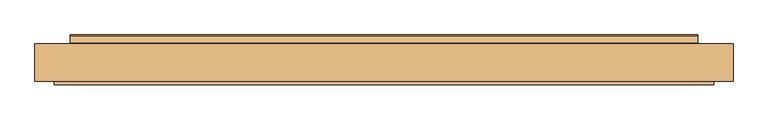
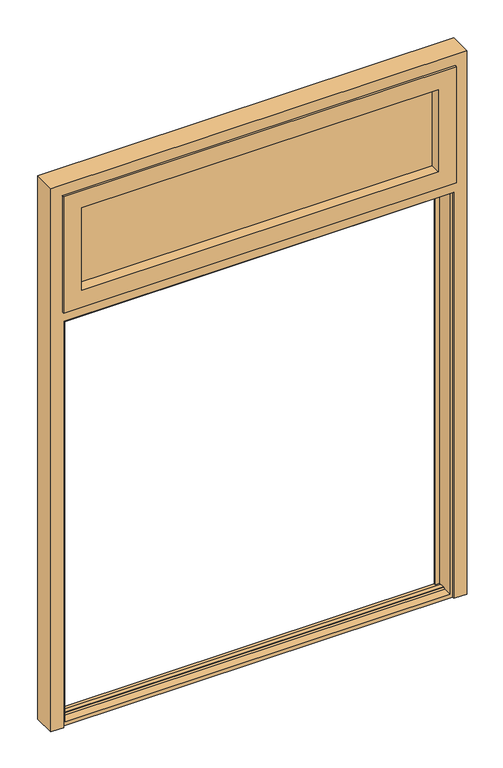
"""IFC4 building model written with IfcOpenShell, lengths in millimetres: door geometry, Dvokrilna vrata s ventusom : Dvokrilna vrata s ventusom."""

from ifc_helpers import new_model, si_unit, frame, origin, place, context, project, spatial, polyline, circle_curve, outline, extrude, source, transform, mapped, element, save
from ifc_brep_helpers import plane_surface, cylinder_surface, revolved_surface, advanced_brep


def door_6dbeb30b(model_context):
    return source(origin(), model_context, "Body", "SolidModel", [
        advanced_brep(
        [(728.9999515, 51.5034493, 2128.9999515), (728.9999515, -25.0, 2128.9999515), (728.9999515, -25.0, 1697.0000485), (728.9999515, 51.5034493, 1697.0000485), (746.499939, -25.0, 2146.499939), (746.499939, -25.0, 1679.500061), (-746.499939, -25.0, 1679.500061), (-746.499939, -25.0, 2146.499939), (-728.9999515, -25.0, 2128.9999515), (-728.9999515, -25.0, 1697.0000485), (-728.9999515, 51.5034493, 1697.0000485), (-728.9999515, 51.5034493, 2128.9999515), (710.4939147, 51.5034493, 1715.5060853), (710.4939147, 51.5034493, 2110.4939147), (-710.4939147, 51.5034493, 2110.4939147), (-710.4939147, 51.5034493, 1715.5060853), (710.4939147, 60.0034493, 2110.4939147), (710.4939147, 60.0034493, 1715.5060853), (710.4939147, 61.4138439, 1715.5111266), (710.4939147, 61.4034433, 1718.4208963), (710.4939147, 65.4034557, 1725.3492482), (710.4939147, 77.4034496, 1718.4209945), (710.4939147, 78.5504065, 1715.5060853), (710.4939147, 79.9811113, 1715.5060853), (710.4939147, 78.0034193, 1719.6911593), (710.4939147, 61.0034803, 1729.5061013), (710.4939147, 60.0034493, 1729.5061013), (-710.4939147, 60.0034493, 1715.5060853), (-710.4939147, 61.4138439, 1715.5111266), (-710.4939147, 61.4034433, 1718.4208963), (-710.4939147, 65.4034557, 1725.3492482), (-710.4939147, 77.4034496, 1718.4209945), (-710.4939147, 78.5504065, 1715.5060853), (-710.4939147, 79.9811113, 1715.5060853), (-710.4939147, 78.0034193, 1719.6911593), (-710.4939147, 61.0034803, 1729.5061013), (-710.4939147, 60.0034493, 1729.5061013), (-710.4939147, 60.0034493, 2110.4939147), (678.0736554, 60.0034493, 1747.9263446), (678.0736554, 60.0034493, 2078.0736554), (-678.0736554, 60.0034493, 2078.0736554), (-678.0736554, 60.0034493, 1747.9263446), (678.0736554, 52.5067387, 2078.0736554), (678.0736554, 52.5067387, 1747.9263446), (-678.0736554, 52.5067387, 1747.9263446), (690.0778178, 52.5067387, 1735.9221822), (690.0778178, 52.5067387, 2090.0778178), (-690.0778178, 52.5067387, 2090.0778178), (-690.0778178, 52.5067387, 1735.9221822), (-678.0736554, 52.5067387, 2078.0736554), (690.0778178, 8.5067387, 2090.0778178), (690.0778178, 8.5067387, 1735.9221822), (-690.0778178, 8.5067387, 1735.9221822), (-690.0778178, 8.5067387, 2090.0778178), (677.9998235, 8.5067387, 1748.0001765), (677.9998235, 8.5067387, 2077.9998235), (-677.9998235, 8.5067387, 2077.9998235), (-677.9998235, 8.5067387, 1748.0001765), (677.9998235, -33.000108, 2077.9998235), (677.9998235, -33.000108, 1748.0001765), (-677.9998235, -33.000108, 1748.0001765), (746.499939, -33.000108, 1679.500061), (746.499939, -33.000108, 2146.499939), (-746.499939, -33.000108, 2146.499939), (-746.499939, -33.000108, 1679.500061), (-677.9998235, -33.000108, 2077.9998235)],
        [
            (0, 1),
            (1, 2),
            (2, 3),
            (3, 0),
            (4, 5),
            (5, 6),
            (6, 7),
            (7, 4),
            (1, 8),
            (8, 9),
            (9, 2),
            (9, 10),
            (10, 3),
            (10, 11),
            (11, 0),
            (12, 13),
            (13, 14),
            (14, 15),
            (15, 12),
            (16, 13),
            (12, 17),
            (17, 18),
            (18, 19),
            (19, 20),
            (20, 21),
            (21, 22, circle_curve(frame((710.4939147, 75.416414, 1715.9560302), z_axis=(-1.0, 0.0, 0.0), x_axis=(0.0, 0.6275919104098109, 0.7785424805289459)), 3.1661269)),
            (22, 23),
            (23, 24, circle_curve(frame((710.4939147, 75.7113681, 1716.0482067), z_axis=(1.0, 0.0, 0.0), x_axis=(0.0, 0.9920357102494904, -0.12595693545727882)), 4.3040217)),
            (24, 25),
            (25, 26),
            (26, 16),
            (15, 27),
            (27, 17),
            (27, 28),
            (28, 18),
            (28, 29),
            (29, 19),
            (29, 30),
            (30, 20),
            (30, 31),
            (31, 21),
            (31, 32, circle_curve(frame((-710.4939147, 75.416414, 1715.9560302), z_axis=(-1.0, 0.0, 0.0), x_axis=(0.0, 0.6275919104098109, 0.7785424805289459)), 3.1661269)),
            (32, 22),
            (32, 33),
            (33, 23),
            (33, 34, circle_curve(frame((-710.4939147, 75.7113681, 1716.0482067), z_axis=(1.0, 0.0, 0.0), x_axis=(0.0, 0.9920357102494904, -0.12595693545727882)), 4.3040217)),
            (34, 24),
            (34, 35),
            (35, 25),
            (35, 36),
            (36, 26),
            (37, 16),
            (36, 37),
            (38, 39),
            (39, 40),
            (40, 41),
            (41, 38),
            (42, 39),
            (38, 43),
            (43, 42),
            (41, 44),
            (44, 43),
            (45, 46),
            (46, 47),
            (47, 48),
            (48, 45),
            (44, 49),
            (49, 42),
            (50, 46),
            (45, 51),
            (51, 50),
            (48, 52),
            (52, 51),
            (52, 53),
            (53, 50),
            (54, 55),
            (55, 56),
            (56, 57),
            (57, 54),
            (58, 55),
            (54, 59),
            (59, 58),
            (57, 60),
            (60, 59),
            (61, 62),
            (62, 63),
            (63, 64),
            (64, 61),
            (60, 65),
            (65, 58),
            (61, 5),
            (4, 62),
            (64, 6),
            (8, 11),
            (14, 37),
            (40, 49),
            (47, 53),
            (56, 65),
            (63, 7),
        ],
        [
            plane_surface(frame((728.9999515, -25.0, 2128.9999515), z_axis=(1.0, 0.0, 0.0), x_axis=(0.0, 0.0, -1.0))),
            plane_surface(frame((-746.499939, -25.0, 2146.499939), z_axis=(0.0, 1.0, 0.0), x_axis=(1.0, 0.0, 0.0))),
            plane_surface(frame((728.9999515, -25.0, 1697.0000485), z_axis=(0.0, 0.0, -1.0), x_axis=(-1.0, 0.0, 0.0))),
            plane_surface(frame((-728.9999515, 51.5034493, 2128.9999515), z_axis=(0.0, 1.0, 0.0), x_axis=(1.0, 0.0, 0.0))),
            plane_surface(frame((710.4939147, 51.5034493, 2110.4939147), z_axis=(1.0, 0.0, 0.0), x_axis=(0.0, 0.0, -1.0))),
            plane_surface(frame((710.4939147, 51.5034493, 1715.5060853), z_axis=(0.0, 0.0, -1.0), x_axis=(-1.0, 0.0, 0.0))),
            plane_surface(frame((-710.4939147, 61.4138439, 1715.5111266), z_axis=(0.0, 0.003574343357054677, -0.9999936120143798), x_axis=(1.0, 0.0, 0.0))),
            plane_surface(frame((-710.4939147, 61.4034433, 1718.4208963), z_axis=(0.0, 0.9999936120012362, 0.0035743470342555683), x_axis=(1.0, 0.0, 0.0))),
            plane_surface(frame((-710.4939147, 65.4034557, 1725.3492482), z_axis=(0.0, 0.8660293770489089, -0.49999311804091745), x_axis=(1.0, 0.0, 0.0))),
            plane_surface(frame((-710.4939147, 77.4034496, 1718.4209945), z_axis=(0.0, -0.5000029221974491, -0.8660237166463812), x_axis=(1.0, 0.0, 0.0))),
            revolved_surface(polyline([(710.4939147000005, 77.40344962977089, 1718.4209944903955), (-710.4939147, 77.40344962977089, 1718.4209944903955)]), (-710.4939147, 75.416414, 1715.9560302), (1.0000000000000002, 0.0, 0.0)),
            plane_surface(frame((-710.4939147, 79.9811113, 1715.5060853), z_axis=(0.0, 0.0, -1.0), x_axis=(1.0, 0.0, 0.0))),
            cylinder_surface(frame((-710.4939147, 75.7113681, 1716.0482067), z_axis=(-1.0, 0.0, 0.0), x_axis=(0.0, 0.9920357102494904, -0.12595693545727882)), 4.3040217),
            plane_surface(frame((-710.4939147, 61.0034803, 1729.5061013), z_axis=(0.0, 0.5000008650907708, 0.8660249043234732), x_axis=(1.0, 0.0, 0.0))),
            plane_surface(frame((-710.4939147, 60.0034493, 1729.5061013), z_axis=(0.0, 0.0, 1.0), x_axis=(1.0, 0.0, 0.0))),
            plane_surface(frame((-710.4939147, 60.0034493, 2110.4939147), z_axis=(0.0, 1.0, 0.0), x_axis=(1.0, 0.0, 0.0))),
            plane_surface(frame((678.0736554, 60.0034493, 2078.0736554), z_axis=(-1.0, 0.0, 0.0), x_axis=(0.0, 0.0, -1.0))),
            plane_surface(frame((678.0736554, 60.0034493, 1747.9263446), z_axis=(0.0, 0.0, 1.0), x_axis=(-1.0, 0.0, 0.0))),
            plane_surface(frame((-678.0736554, 52.5067387, 2078.0736554), z_axis=(0.0, -1.0, 0.0), x_axis=(1.0, 0.0, 0.0))),
            plane_surface(frame((690.0778178, 52.5067387, 2090.0778178), z_axis=(-1.0, 0.0, 0.0), x_axis=(0.0, 0.0, -1.0))),
            plane_surface(frame((690.0778178, 52.5067387, 1735.9221822), z_axis=(0.0, 0.0, 1.0), x_axis=(-1.0, 0.0, 0.0))),
            plane_surface(frame((-690.0778178, 8.5067387, 2090.0778178), z_axis=(0.0, 1.0, 0.0), x_axis=(1.0, 0.0, 0.0))),
            plane_surface(frame((677.9998235, 8.5067387, 2077.9998235), z_axis=(-1.0, 0.0, 0.0), x_axis=(0.0, 0.0, -1.0))),
            plane_surface(frame((677.9998235, 8.5067387, 1748.0001765), z_axis=(0.0, 0.0, 1.0), x_axis=(-1.0, 0.0, 0.0))),
            plane_surface(frame((-677.9998235, -33.000108, 2077.9998235), z_axis=(0.0, -1.0, 0.0), x_axis=(1.0, 0.0, 0.0))),
            plane_surface(frame((746.499939, -30.2000402, 2146.499939), z_axis=(1.0, 0.0, 0.0), x_axis=(0.0, 0.0, -1.0))),
            plane_surface(frame((746.499939, -30.2000402, 1679.500061), z_axis=(0.0, 0.0, -1.0), x_axis=(-1.0, 0.0, 0.0))),
            plane_surface(frame((-728.9999515, -25.0, 1697.0000485), z_axis=(-1.0, 0.0, 0.0), x_axis=(0.0, 0.0, 1.0))),
            plane_surface(frame((-710.4939147, 51.5034493, 1715.5060853), z_axis=(-1.0, 0.0, 0.0), x_axis=(0.0, 0.0, 1.0))),
            plane_surface(frame((-678.0736554, 60.0034493, 1747.9263446), z_axis=(1.0, 0.0, 0.0), x_axis=(0.0, 0.0, 1.0))),
            plane_surface(frame((-690.0778178, 52.5067387, 1735.9221822), z_axis=(1.0, 0.0, 0.0), x_axis=(0.0, 0.0, 1.0))),
            plane_surface(frame((-677.9998235, 8.5067387, 1748.0001765), z_axis=(1.0, 0.0, 0.0), x_axis=(0.0, 0.0, 1.0))),
            plane_surface(frame((-746.499939, -30.2000402, 1679.500061), z_axis=(-1.0, 0.0, 0.0), x_axis=(0.0, 0.0, 1.0))),
            plane_surface(frame((-728.9999515, -25.0, 2128.9999515), z_axis=(0.0, 0.0, 1.0), x_axis=(1.0, 0.0, 0.0))),
            plane_surface(frame((-710.4939147, 51.5034493, 2110.4939147), z_axis=(0.0, 0.0, 1.0), x_axis=(1.0, 0.0, 0.0))),
            plane_surface(frame((-678.0736554, 60.0034493, 2078.0736554), z_axis=(0.0, 0.0, -1.0), x_axis=(1.0, 0.0, 0.0))),
            plane_surface(frame((-690.0778178, 52.5067387, 2090.0778178), z_axis=(0.0, 0.0, -1.0), x_axis=(1.0, 0.0, 0.0))),
            plane_surface(frame((-677.9998235, 8.5067387, 2077.9998235), z_axis=(0.0, 0.0, -1.0), x_axis=(1.0, 0.0, 0.0))),
            plane_surface(frame((-746.499939, -30.2000402, 2146.499939), z_axis=(0.0, 0.0, 1.0), x_axis=(1.0, 0.0, 0.0))),
        ],
        [
            (0, [[1, 2, 3, 4]]),
            (1, [[5, 6, 7, 8], [-2, 9, 10, 11]]),
            (2, [[-3, -11, 12, 13]]),
            (3, [[-4, -13, 14, 15], [16, 17, 18, 19]]),
            (4, [[20, -16, 21, 22, 23, 24, 25, 26, 27, 28, 29, 30, 31]]),
            (5, [[-21, -19, 32, 33]]),
            (6, [[34, 35, -22, -33]]),
            (7, [[36, 37, -23, -35]]),
            (8, [[38, 39, -24, -37]]),
            (9, [[40, 41, -25, -39]]),
            (10, [[42, 43, -26, -41]]),
            (11, [[44, 45, -27, -43]]),
            (12, [[46, 47, -28, -45]]),
            (13, [[48, 49, -29, -47]]),
            (14, [[50, 51, -30, -49]]),
            (15, [[52, -31, -51, 53], [54, 55, 56, 57]]),
            (16, [[58, -54, 59, 60]]),
            (17, [[-59, -57, 61, 62]]),
            (18, [[63, 64, 65, 66], [-60, -62, 67, 68]]),
            (19, [[69, -63, 70, 71]]),
            (20, [[-70, -66, 72, 73]]),
            (21, [[-71, -73, 74, 75], [76, 77, 78, 79]]),
            (22, [[80, -76, 81, 82]]),
            (23, [[-81, -79, 83, 84]]),
            (24, [[85, 86, 87, 88], [-82, -84, 89, 90]]),
            (25, [[-85, 91, -5, 92]]),
            (26, [[-91, -88, 93, -6]]),
            (27, [[-12, -10, 94, -14]]),
            (28, [[-32, -18, 95, -53, -50, -48, -46, -44, -42, -40, -38, -36, -34]]),
            (29, [[-61, -56, 96, -67]]),
            (30, [[-72, -65, 97, -74]]),
            (31, [[-83, -78, 98, -89]]),
            (32, [[-93, -87, 99, -7]]),
            (33, [[-1, -15, -94, -9]]),
            (34, [[-20, -52, -95, -17]]),
            (35, [[-58, -68, -96, -55]]),
            (36, [[-69, -75, -97, -64]]),
            (37, [[-80, -90, -98, -77]]),
            (38, [[-92, -8, -99, -86]]),
        ],
    ),
        extrude(outline(polyline([(690.0778178, 8.5067387), (-690.0778178, 8.5067387), (-690.0778178, 51.5034493), (690.0778178, 51.5034493), (690.0778178, 8.5067387)])), frame((0.0, 0.0, 1735.9221822), z_axis=(0.0, 0.0, 1.0), x_axis=(1.0, 0.0, 0.0)), (0.0, 0.0, 1.0), 354.1556356),
        advanced_brep(
        [(-740.4975921, -16.6500238, 10.0), (-740.4975921, -25.0, 10.0), (-790.0, -25.0, 10.0), (-790.0, 60.0038013, 10.0), (790.0, 60.0038013, 10.0), (790.0, -25.0, 10.0), (740.4975921, -25.0, 10.0), (740.4975921, -16.6500238, 10.0), (-740.4975921, -16.6500238, 1640.4981835), (-740.4975921, -25.0, 1640.4981835), (-740.4975921, -16.6500238, 2140.4975921), (-740.4975921, -25.0, 2140.4975921), (-740.4975921, -25.0, 1685.4982455), (-740.4975921, -16.6500238, 1685.4982455), (740.4975921, -25.0, 1640.4981835), (790.0, -25.0, 2190.0), (-790.0, -25.0, 2190.0), (740.4975921, -25.0, 2140.4975921), (740.4975921, -25.0, 1685.4982455), (-790.0, 60.0038013, 2190.0), (790.0, 60.0038013, 2190.0), (-715.5, 60.0038013, 2115.5), (-715.5, 60.0038013, 25.6983046), (715.5, 60.0038013, 25.6983046), (715.5, 60.0038013, 2115.5), (740.4975921, -16.6500238, 1640.4981835), (740.4975921, -16.6500238, 2140.4975921), (740.4975921, -16.6500238, 1685.4982455), (730.9940382, -16.6500238, 1630.9980826), (730.9940382, -16.6500238, 25.5020091), (-730.9940382, -16.6500238, 25.5020091), (-730.9940382, -16.6500238, 1630.9980826), (-730.9940382, -16.6500238, 2130.9940382), (730.9940382, -16.6500238, 2130.9940382), (730.9940382, -16.6500238, 1685.4982455), (-730.9940382, -16.6500238, 1685.4982455), (-715.5, 51.4930924, 1615.5), (715.5, 51.4930924, 1615.5), (715.5, 51.4930924, 27.2333939), (730.9940382, 51.4930924, 27.2333939), (730.9940382, 51.4930924, 1634.1980771), (-730.9940382, 51.4930924, 1634.1980771), (-730.9940382, 51.4930924, 27.2333939), (-715.5, 51.4930924, 27.2333939), (730.9940382, 51.4930924, 2130.9940382), (-730.9940382, 51.4930924, 2130.9940382), (-730.9940382, 51.4930924, 1685.4982455), (730.9940382, 51.4930924, 1685.4982455), (-715.5, 51.4930924, 2115.5), (715.5, 51.4930924, 2115.5), (715.5, 51.4930924, 1710.5), (-715.5, 51.4930924, 1710.5), (-715.5, 59.5034493, 1710.5), (-715.5, 59.5034493, 1615.5), (-730.9940382, 45.1495482, 28.3775885), (730.9940382, 45.1495482, 28.3775885), (715.5, 59.5034493, 1615.5), (715.5, 59.5034493, 1710.5), (730.9940382, 10.7380191, 1634.1980771), (730.9940382, 24.659118, 30.02273), (730.9940382, 22.8455133, 29.5983726), (730.9940382, 16.0961648, 25.5020091), (730.9940382, -15.1500233, 1630.9980826), (730.9940382, -15.1500233, 1636.8521488), (730.9940382, 10.7380191, 1636.8521488), (-730.9940382, 16.0961648, 25.5020091), (-730.9940382, 10.7380191, 1634.1980771), (-730.9940382, 10.7380191, 1636.8521488), (-730.9940382, -15.1500233, 1636.8521488), (-730.9940382, -15.1500233, 1630.9980826), (-730.9940382, 22.8455133, 29.5983726), (-730.9940382, 24.659118, 30.02273)],
        [
            (0, 1),
            (1, 2),
            (2, 3),
            (3, 4),
            (4, 5),
            (5, 6),
            (6, 7),
            (7, 0),
            (0, 8),
            (8, 9),
            (9, 1),
            (10, 11),
            (11, 12),
            (12, 13),
            (13, 10),
            (9, 14),
            (14, 6),
            (5, 15),
            (15, 16),
            (16, 2),
            (11, 17),
            (17, 18),
            (18, 12),
            (16, 19),
            (19, 3),
            (19, 20),
            (20, 4),
            (21, 22),
            (22, 23),
            (23, 24),
            (24, 21),
            (20, 15),
            (25, 7),
            (14, 25),
            (17, 26),
            (26, 27),
            (27, 18),
            (25, 8),
            (28, 29),
            (29, 30),
            (30, 31),
            (31, 28),
            (32, 33),
            (33, 34),
            (34, 27),
            (26, 10),
            (13, 35),
            (35, 32),
            (36, 37),
            (37, 38),
            (38, 39),
            (39, 40),
            (40, 41),
            (41, 42),
            (42, 43),
            (43, 36),
            (44, 45),
            (45, 46),
            (46, 47),
            (47, 44),
            (48, 49),
            (49, 50),
            (50, 51),
            (51, 48),
            (21, 48),
            (51, 52),
            (52, 53),
            (53, 36),
            (43, 22),
            (42, 54),
            (54, 55),
            (55, 39),
            (38, 23),
            (49, 24),
            (37, 56),
            (56, 57),
            (57, 50),
            (58, 40),
            (55, 59),
            (59, 60, circle_curve(frame((730.9940382, 24.4020436, 27.0337648), z_axis=(1.0, 0.0, 0.0), x_axis=(0.0, -0.5188434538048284, 0.8548692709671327)), 3.0)),
            (60, 61),
            (61, 29),
            (28, 62),
            (62, 63),
            (63, 64),
            (64, 58),
            (33, 44),
            (47, 34),
            (61, 65),
            (65, 30),
            (45, 32),
            (35, 46),
            (41, 66),
            (66, 67),
            (67, 68),
            (68, 69),
            (69, 31),
            (65, 70),
            (70, 71, circle_curve(frame((-730.9940382, 24.4020436, 27.0337648), z_axis=(-1.0, 0.0, 0.0), x_axis=(0.0, -0.5188434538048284, 0.8548692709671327)), 3.0)),
            (71, 54),
            (60, 70),
            (59, 71),
            (52, 57),
            (56, 53),
            (58, 66),
            (64, 67),
            (63, 68),
            (62, 69),
        ],
        [
            plane_surface(frame((-790.0, 60.0038013, 10.0), z_axis=(0.0, 0.0, -1.0), x_axis=(0.0, -1.0, 0.0))),
            plane_surface(frame((-740.4975921, -16.6500238, 10.0), z_axis=(1.0, 0.0, 0.0), x_axis=(0.0, 0.0, 1.0))),
            plane_surface(frame((-740.4975921, -25.0, 10.0), z_axis=(0.0, -1.0, 0.0), x_axis=(0.0, 0.0, 1.0))),
            plane_surface(frame((-790.0, 58.4038013, 10.0), z_axis=(-1.0, 0.0, 0.0), x_axis=(0.0, 0.0, 1.0))),
            plane_surface(frame((-790.0, 60.0038013, 10.0), z_axis=(0.0, 1.0, 0.0), x_axis=(0.0, 0.0, 1.0))),
            plane_surface(frame((790.0, 58.4038013, 2190.0), z_axis=(1.0, 0.0, 0.0), x_axis=(0.0, 0.0, -1.0))),
            plane_surface(frame((740.4975921, -16.6500238, 2140.4975921), z_axis=(-1.0, 0.0, 0.0), x_axis=(0.0, 0.0, -1.0))),
            plane_surface(frame((-730.9940382, -16.6500238, 10.0), z_axis=(0.0, -1.0, 0.0), x_axis=(0.0, 0.0, 1.0))),
            plane_surface(frame((-715.5, 51.4930924, 10.0), z_axis=(0.0, -1.0, 0.0), x_axis=(0.0, 0.0, 1.0))),
            plane_surface(frame((-715.5, 60.0038013, 10.0), z_axis=(1.0, 0.0, 0.0), x_axis=(0.0, 0.0, 1.0))),
            plane_surface(frame((-790.0, 45.1495482, 28.3775885), z_axis=(0.0, 0.17750711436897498, 0.9841195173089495), x_axis=(1.0, 0.0, 0.0))),
            plane_surface(frame((715.5, 60.0038013, 2115.5), z_axis=(-1.0, 0.0, 0.0), x_axis=(0.0, 0.0, -1.0))),
            plane_surface(frame((730.9940382, 51.4930924, 2130.9940382), z_axis=(-1.0, 0.0, 0.0), x_axis=(0.0, 0.0, -1.0))),
            plane_surface(frame((-790.0, -16.4914745, 25.5020091), z_axis=(0.0, 0.0, 1.0), x_axis=(1.0, 0.0, 0.0))),
            plane_surface(frame((-730.9940382, 51.4930924, 10.0), z_axis=(1.0, 0.0, 0.0), x_axis=(0.0, 0.0, 1.0))),
            plane_surface(frame((-790.0, 16.0961648, 25.5020091), z_axis=(0.0, -0.5188434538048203, 0.8548692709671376), x_axis=(1.0, 0.0, 0.0))),
            cylinder_surface(frame((-790.0, 24.4020436, 27.0337648), z_axis=(-1.0, 0.0, 0.0), x_axis=(0.0, -0.5188434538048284, 0.8548692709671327)), 3.0),
            plane_surface(frame((-790.0, 24.659118, 30.02273), z_axis=(0.0, 0.08003075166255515, 0.9967923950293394), x_axis=(1.0, 0.0, 0.0))),
            plane_surface(frame((-715.5, 60.0038013, 2115.5), z_axis=(0.0, 0.0, -1.0), x_axis=(1.0, 0.0, 0.0))),
            plane_surface(frame((-790.0, 58.4038013, 2190.0), z_axis=(0.0, 0.0, 1.0), x_axis=(1.0, 0.0, 0.0))),
            plane_surface(frame((-740.4975921, -16.6500238, 2140.4975921), z_axis=(0.0, 0.0, -1.0), x_axis=(1.0, 0.0, 0.0))),
            plane_surface(frame((-730.9940382, 51.4930924, 2130.9940382), z_axis=(0.0, 0.0, -1.0), x_axis=(1.0, 0.0, 0.0))),
            plane_surface(frame((-790.0, 59.5034493, 1710.5), z_axis=(0.0, 1.0, 0.0), x_axis=(1.0, 0.0, 0.0))),
            plane_surface(frame((-790.0, 59.5034493, 1615.5), z_axis=(0.0, 0.0, -1.0), x_axis=(1.0, 0.0, 0.0))),
            plane_surface(frame((-790.0, 51.4930924, 1634.1980771), z_axis=(0.0, 0.0, -1.0), x_axis=(1.0, 0.0, 0.0))),
            plane_surface(frame((-790.0, 10.7380191, 1634.1980771), z_axis=(0.0, -1.0, 0.0), x_axis=(1.0, 0.0, 0.0))),
            plane_surface(frame((-790.0, 10.7380191, 1636.8521488), z_axis=(0.0, 0.0, -1.0), x_axis=(1.0, 0.0, 0.0))),
            plane_surface(frame((-790.0, -15.1500233, 1636.8521488), z_axis=(0.0, 1.0, 0.0), x_axis=(1.0, 0.0, 0.0))),
            plane_surface(frame((-790.0, -15.1500233, 1630.9980826), z_axis=(0.0, 0.0, -1.0), x_axis=(1.0, 0.0, 0.0))),
            plane_surface(frame((-790.0, -16.6500238, 1640.4981835), z_axis=(0.0, 0.0, -1.0), x_axis=(1.0, 0.0, 0.0))),
            plane_surface(frame((-790.0, -25.0, 1685.4982455), z_axis=(0.0, 0.0, 1.0), x_axis=(1.0, 0.0, 0.0))),
            plane_surface(frame((-790.0, 51.5034493, 1710.5), z_axis=(0.0, 0.0, 1.0), x_axis=(1.0, 0.0, 0.0))),
        ],
        [
            (0, [[1, 2, 3, 4, 5, 6, 7, 8]]),
            (1, [[-1, 9, 10, 11]]),
            (1, [[12, 13, 14, 15]]),
            (2, [[-2, -11, 16, 17, -6, 18, 19, 20], [21, 22, 23, -13]]),
            (3, [[24, 25, -3, -20]]),
            (4, [[-4, -25, 26, 27], [28, 29, 30, 31]]),
            (5, [[-27, 32, -18, -5]]),
            (6, [[33, -7, -17, 34]]),
            (6, [[35, 36, 37, -22]]),
            (7, [[-8, -33, 38, -9], [39, 40, 41, 42]]),
            (7, [[43, 44, 45, -36, 46, -15, 47, 48]]),
            (8, [[49, 50, 51, 52, 53, 54, 55, 56]]),
            (8, [[57, 58, 59, 60], [61, 62, 63, 64]]),
            (9, [[65, -64, 66, 67, 68, -56, 69, -28]]),
            (10, [[-29, -69, -55, 70, 71, 72, -51, 73]]),
            (11, [[74, -30, -73, -50, 75, 76, 77, -62]]),
            (12, [[78, -52, -72, 79, 80, 81, 82, -39, 83, 84, 85, 86]]),
            (12, [[87, -60, 88, -44]]),
            (13, [[-40, -82, 89, 90]]),
            (14, [[91, -48, 92, -58]]),
            (14, [[93, 94, 95, 96, 97, -41, -90, 98, 99, 100, -70, -54]]),
            (15, [[-89, -81, 101, -98]]),
            (16, [[102, -99, -101, -80]]),
            (17, [[-102, -79, -71, -100]]),
            (18, [[-65, -31, -74, -61]]),
            (19, [[-26, -24, -19, -32]]),
            (20, [[-21, -12, -46, -35]]),
            (21, [[-43, -91, -57, -87]]),
            (22, [[103, -76, 104, -67]]),
            (23, [[-49, -68, -104, -75]]),
            (24, [[105, -93, -53, -78]]),
            (25, [[-105, -86, 106, -94]]),
            (26, [[-106, -85, 107, -95]]),
            (27, [[-107, -84, 108, -96]]),
            (28, [[-42, -97, -108, -83]]),
            (29, [[-16, -10, -38, -34]]),
            (30, [[-23, -37, -45, -88, -59, -92, -47, -14]]),
            (31, [[-63, -77, -103, -66]]),
        ],
    ),
    ])


if __name__ == "__main__":
    model = new_model("IFC4")
    model_context = context("Model", 3, world=origin())
    ifc_project = project(units=[si_unit("LENGTHUNIT", "METRE", prefix="MILLI")], contexts=[model_context])
    site = spatial("IfcSite", under=ifc_project)
    building = spatial("IfcBuilding", under=site)
    placement = place(None, origin())
    door_shape = door_6dbeb30b(model_context)
    element("IfcDoor", 1, ObjectType="Dvokrilna vrata s ventusom : Dvokrilna vrata s ventusom", at=placement, inside=building, context=model_context, shape_type="MappedRepresentation", body=[
        mapped(door_shape, transform((0.0, 0.0, 0.0), x_axis=(1.0, 0.0, 0.0), y_axis=(0.0, 1.0, 0.0), z_axis=(0.0, 0.0, 1.0))),
    ])
    save(model, "model.ifc")
